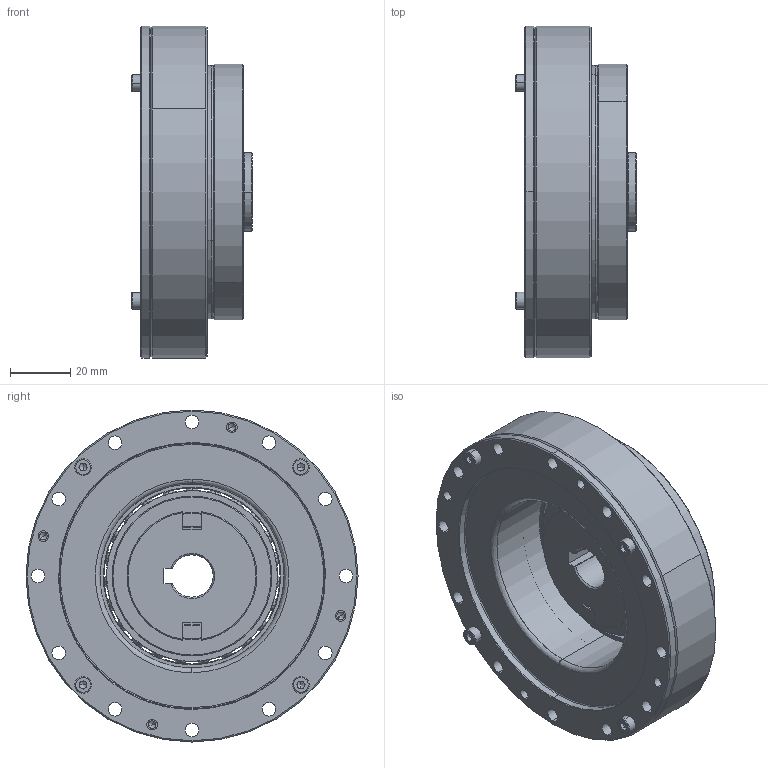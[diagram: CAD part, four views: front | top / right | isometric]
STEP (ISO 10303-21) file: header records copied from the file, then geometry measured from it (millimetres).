
FILE_DESCRIPTION (( 'STEP AP203' ), '1' );
FILE_NAME ('LHS-25-XXX-C-II.step', '2025-01-07T06:18:40', ( '' ), ( '' ), 'SwSTEP 2.0', 'SolidWorks 2023', '' );
FILE_SCHEMA (( 'CONFIG_CONTROL_DESIGN' ));
Length unit declared in the file: metre
Products named in the file (1): LHS-25-XXX-C-II
Bounding box: 40 x 110 x 110 mm (x, y, z)
Volume: 161497.1 mm3; surface area: 118547.4 mm2
Topology: 44 solids, 44 shells, 921 faces, 2290 edges, 1358 vertices
Faces by surface type: cylinder 374, plane 254, cone 165, bspline 128
Entity records: 30150 total; most frequent: CARTESIAN_POINT 8600, DIRECTION 4776, ORIENTED_EDGE 4252, EDGE_CURVE 2126, AXIS2_PLACEMENT_3D 1960, VERTEX_POINT 1358, CIRCLE 1166, EDGE_LOOP 1126
